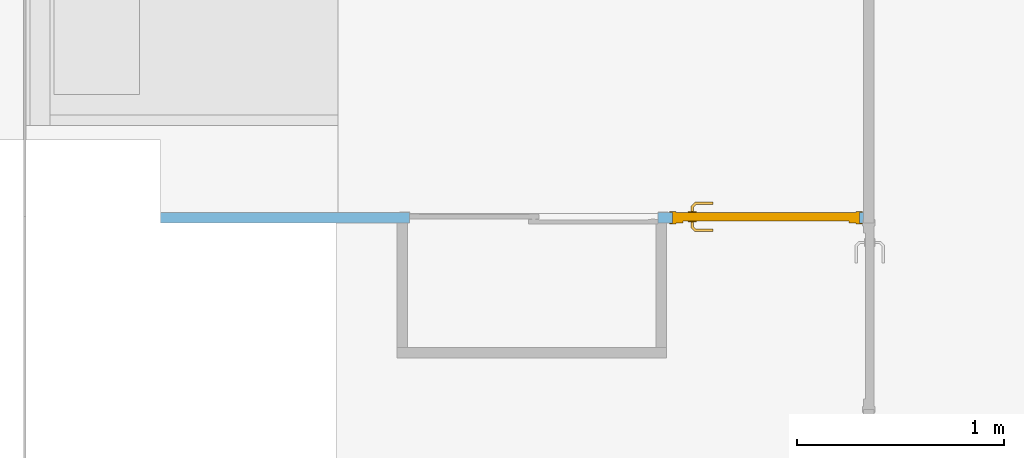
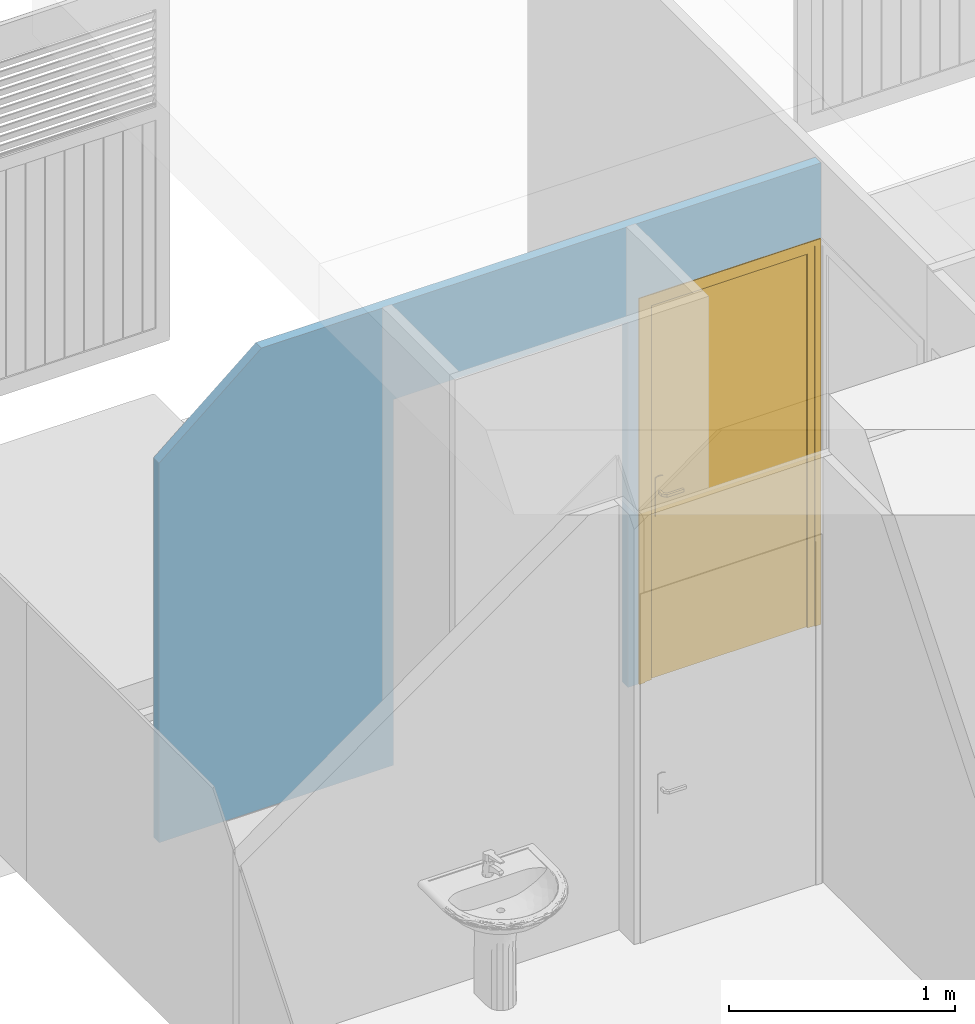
# One storey, part 4 of 11: 1 door, 2 openings, plus 1 element that does not belong to this part.
"""IFC2X3 building model written with IfcOpenShell, lengths in metres."""

from ifc_helpers import new_model, entity, si_unit, converted_unit, derived_unit, direction, frame, frame_2d, origin, place, context, subcontext, project, spatial, polyline, rectangle, extrude, clip, halfspace, bounded_halfspace, faceted_brep, source, transform, mapped, material, material_list, layer, layer_set, layer_usage, type_object, type_shapes, element, fill, save


model = new_model("IFC2X3")

# Units and contexts
model_context = context("Model", 3, precision=1e-05, world=origin(), true_north=direction((6.12303176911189e-17, 1.0)))
body_context = subcontext(model_context, "Body", "Model", "MODEL_VIEW")
ifc_project = project(units=[si_unit("LENGTHUNIT", "METRE"), si_unit("AREAUNIT", "SQUARE_METRE"), si_unit("VOLUMEUNIT", "CUBIC_METRE"), converted_unit("PLANEANGLEUNIT", "DEGREE", entity("IfcRatioMeasure", 0.0174532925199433), si_unit("PLANEANGLEUNIT", "RADIAN"), dimensions=[0, 0, 0, 0, 0, 0, 0]), si_unit("MASSUNIT", "GRAM", prefix="KILO"), derived_unit("MASSDENSITYUNIT", [(si_unit("MASSUNIT", "GRAM", prefix="KILO"), 1), (si_unit("LENGTHUNIT", "METRE"), -3)]), derived_unit("MOMENTOFINERTIAUNIT", [(si_unit("LENGTHUNIT", "METRE"), 4)]), si_unit("TIMEUNIT", "SECOND"), si_unit("FREQUENCYUNIT", "HERTZ"), si_unit("THERMODYNAMICTEMPERATUREUNIT", "DEGREE_CELSIUS"), derived_unit("THERMALTRANSMITTANCEUNIT", [(si_unit("MASSUNIT", "GRAM", prefix="KILO"), 1), (si_unit("THERMODYNAMICTEMPERATUREUNIT", "KELVIN"), -1), (si_unit("TIMEUNIT", "SECOND"), -3)]), derived_unit("VOLUMETRICFLOWRATEUNIT", [(si_unit("LENGTHUNIT", "METRE"), 3), (si_unit("TIMEUNIT", "SECOND"), -1)]), si_unit("ELECTRICCURRENTUNIT", "AMPERE"), si_unit("ELECTRICVOLTAGEUNIT", "VOLT"), si_unit("POWERUNIT", "WATT"), si_unit("FORCEUNIT", "NEWTON", prefix="KILO"), si_unit("ILLUMINANCEUNIT", "LUX"), si_unit("LUMINOUSFLUXUNIT", "LUMEN"), si_unit("LUMINOUSINTENSITYUNIT", "CANDELA"), derived_unit("USERDEFINED", [(si_unit("MASSUNIT", "GRAM", prefix="KILO"), -1), (si_unit("LENGTHUNIT", "METRE"), -2), (si_unit("TIMEUNIT", "SECOND"), 3), (si_unit("LUMINOUSFLUXUNIT", "LUMEN"), 1)]), derived_unit("LINEARVELOCITYUNIT", [(si_unit("LENGTHUNIT", "METRE"), 1), (si_unit("TIMEUNIT", "SECOND"), -1)]), si_unit("PRESSUREUNIT", "PASCAL"), derived_unit("USERDEFINED", [(si_unit("LENGTHUNIT", "METRE"), -2), (si_unit("MASSUNIT", "GRAM", prefix="KILO"), 1), (si_unit("TIMEUNIT", "SECOND"), -2)]), derived_unit("LINEARFORCEUNIT", [(si_unit("MASSUNIT", "GRAM", prefix="KILO"), 1), (si_unit("LENGTHUNIT", "METRE"), 1), (si_unit("TIMEUNIT", "SECOND"), -2), (si_unit("LENGTHUNIT", "METRE"), -1)]), derived_unit("PLANARFORCEUNIT", [(si_unit("MASSUNIT", "GRAM", prefix="KILO"), 1), (si_unit("LENGTHUNIT", "METRE"), 1), (si_unit("TIMEUNIT", "SECOND"), -2), (si_unit("LENGTHUNIT", "METRE"), -2)])], contexts=[model_context])

# Site, building, storey
site_placement = place(None, origin())
site = spatial("IfcSite", under=ifc_project, at=site_placement, Name="Surface", CompositionType="ELEMENT")
building_placement = place(site_placement, origin())
building = spatial("IfcBuilding", under=site, at=building_placement, CompositionType="ELEMENT")
storey_placement = place(building_placement, frame((0.0, 0.0, 2.72)))
storey = spatial("IfcBuildingStorey", under=building, at=storey_placement, Name="02 ETG", CompositionType="ELEMENT", Elevation=2.72)

# Wall, openings, door
ifc_material_1 = material(Name="Mur par défaut")
ifc_layer = layer(ifc_material_1, 0.05)
ifc_layer_set = layer_set([ifc_layer], Name="Mur de base:cloison séche - B.A10")
ifc_layer_usage = layer_usage(ifc_layer_set, "AXIS2", "NEGATIVE", 0.025)
wall_type = type_object("IfcWallType", Name="Mur de base:cloison séche - B.A10", PredefinedType="STANDARD", material=ifc_layer_set)
wall_placement = place(storey_placement, frame((6.39656158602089, 0.859039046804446, 0.0)))
wall = element("IfcWallStandardCase", 1, at=wall_placement, inside=storey, type_object=wall_type, material=ifc_layer_usage, Name="Mur de base:cloison séche - B.A10", ObjectType="Mur de base:cloison séche - B.A10", context=body_context, shape_type="Clipping", body=[
    clip(clip(extrude(rectangle(XDim=3.38999999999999, YDim=0.05, at=frame_2d((1.695, 3.81639164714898e-17), x_axis=(-1.0, 0.0))), origin(), (0.0, 0.0, 1.0), 2.49499999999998), bounded_halfspace(frame((3.38999999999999, 0.0250000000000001, 2.49499999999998), z_axis=(0.0, 0.0, -1.0), x_axis=(1.0, 0.0, 0.0)), True, frame((3.38999999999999, 0.0250000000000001, 2.49499999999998)), polyline([(0.0, 0.0), (-2.53499999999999, 0.0), (-2.53499999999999, -0.0249999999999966), (0.0, -0.0249999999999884), (0.0, 0.0)]))), halfspace(frame((0.0, -0.025, 2.05536265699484), z_axis=(-0.642787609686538, 0.0, 0.766044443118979), x_axis=(0.0, 1.0, 0.0)), False)),
])
opening_1_placement = place(wall_placement, frame((2.47, -0.0249999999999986, 0.0)))
opening_1 = element("IfcOpeningElement", 2, at=opening_1_placement, cuts=wall, Name="Int. Simple:PP (0.83m x 2.04m):1", ObjectType="Opening", context=body_context, shape_type="SweptSolid", body=[
    extrude(rectangle(XDim=2.075, YDim=0.9, at=frame_2d((1.0375, 0.45), x_axis=(1.0, 0.0))), frame((0.0, 0.0, 0.0), z_axis=(0.0, 1.0, 0.0), x_axis=(0.0, 0.0, 1.0)), (0.0, 0.0, 1.0), 0.05),
])
opening_2_placement = place(wall_placement, frame((1.2, -0.0249999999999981, 0.0)))
element("IfcOpeningElement", 3, at=opening_2_placement, cuts=wall, Name="Placard coulissante - 2 panneaux:Placard coulissante - 2 panneaux:1", ObjectType="Opening", context=body_context, shape_type="SweptSolid", body=[
    extrude(rectangle(XDim=1.97999999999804, YDim=1.2, at=frame_2d((0.989999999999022, 0.6), x_axis=(1.0, 0.0))), frame((0.0, 0.0, 0.0), z_axis=(0.0, 1.0, 0.0), x_axis=(0.0, 0.0, 1.0)), (0.0, 0.0, 1.0), 0.05),
])
ifc_material_2 = material(Name="Finition Peinture - Blanc satiné")
ifc_material_3 = material(Name="Bois - Panneau de porte")
ifc_material_4 = material(Name="Bois - Cadre de porte")
ifc_material_list_1 = material_list([ifc_material_2, ifc_material_3, ifc_material_4])
ifc_material_list_2 = material_list([ifc_material_4, ifc_material_3, ifc_material_2, ifc_material_4])
door_style = type_object("IfcDoorStyle", Name="Int. Simple:PP (0.83m x 2.04m)", ConstructionType="NOTDEFINED", OperationType="NOTDEFINED", ParameterTakesPrecedence=False, Sizeable=False, material=ifc_material_list_2)
shared_shape = source(origin(), body_context, "Body", "Brep", [
    faceted_brep([(0.895000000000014, -0.00500000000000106, 0.870000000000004), (0.895000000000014, -0.00500000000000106, 1.08), (0.885352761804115, -0.00500000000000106, 1.08399601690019), (0.875000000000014, -0.00500000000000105, 1.08535898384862), (0.864647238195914, -0.00500000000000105, 1.08399601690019), (0.855000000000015, -0.00500000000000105, 1.08), (0.855000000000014, -0.00500000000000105, 0.870000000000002), (0.864647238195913, -0.00500000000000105, 0.866003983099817), (0.875000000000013, -0.00500000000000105, 0.86464101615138), (0.885352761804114, -0.00500000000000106, 0.866003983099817), (0.895000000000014, 0.0, 1.08), (0.895000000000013, 0.0, 0.870000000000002), (0.885352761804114, 0.0, 0.866003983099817), (0.875000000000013, 0.0, 0.86464101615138), (0.864647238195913, 0.0, 0.866003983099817), (0.855000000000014, 0.0, 0.870000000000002), (0.855000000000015, 0.0, 1.08), (0.864647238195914, 0.0, 1.08399601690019), (0.875000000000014, 0.0, 1.08535898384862), (0.885352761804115, 0.0, 1.08399601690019)], [[[0, 1, 2, 3, 4, 5, 6, 7, 8, 9]], [[10, 11, 12, 13, 14, 15, 16, 17, 18, 19]], [[9, 12, 11, 0]], [[8, 13, 12, 9]], [[7, 14, 13, 8]], [[7, 6, 15, 14]], [[15, 6, 5, 16]], [[4, 17, 16, 5]], [[3, 18, 17, 4]], [[2, 19, 18, 3]], [[2, 1, 10, 19]], [[11, 10, 1, 0]]]),
    faceted_brep([(0.895000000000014, 0.0399999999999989, 0.870000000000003), (0.895000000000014, 0.0399999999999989, 1.08), (0.885352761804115, 0.0399999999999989, 1.08399601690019), (0.875000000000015, 0.0399999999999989, 1.08535898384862), (0.864647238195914, 0.0399999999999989, 1.08399601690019), (0.855000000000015, 0.0399999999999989, 1.08), (0.855000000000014, 0.0399999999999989, 0.870000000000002), (0.864647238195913, 0.0399999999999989, 0.866003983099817), (0.875000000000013, 0.0399999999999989, 0.86464101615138), (0.885352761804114, 0.0399999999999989, 0.866003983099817), (0.875000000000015, 0.0449999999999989, 1.08535898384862), (0.885352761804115, 0.0449999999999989, 1.08399601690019), (0.895000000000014, 0.0449999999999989, 1.08), (0.895000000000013, 0.0449999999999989, 0.870000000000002), (0.885352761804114, 0.0449999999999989, 0.866003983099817), (0.875000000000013, 0.0449999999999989, 0.86464101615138), (0.864647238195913, 0.0449999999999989, 0.866003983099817), (0.855000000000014, 0.0449999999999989, 0.870000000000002), (0.855000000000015, 0.0449999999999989, 1.08), (0.864647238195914, 0.0449999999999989, 1.08399601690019)], [[[0, 1, 2, 3, 4, 5, 6, 7, 8, 9]], [[10, 11, 12, 13, 14, 15, 16, 17, 18, 19]], [[4, 19, 18, 5]], [[3, 10, 19, 4]], [[2, 11, 10, 3]], [[2, 1, 12, 11]], [[13, 12, 1, 0]], [[9, 14, 13, 0]], [[8, 15, 14, 9]], [[7, 16, 15, 8]], [[7, 6, 17, 16]], [[17, 6, 5, 18]]]),
    faceted_brep([(0.872974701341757, -0.0050000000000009, 1.00778044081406), (0.877025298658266, -0.00500000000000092, 1.00778044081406), (0.881000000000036, -0.00500000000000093, 1.00699999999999), (0.881000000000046, -0.00500000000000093, 0.992999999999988), (0.877025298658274, -0.00500000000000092, 0.99221955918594), (0.872974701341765, -0.0050000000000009, 0.992219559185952), (0.868999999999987, -0.00500000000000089, 0.993000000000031), (0.868999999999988, -0.00500000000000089, 1.007), (0.877025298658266, -0.0310045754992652, 1.00778044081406), (0.881000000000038, -0.0326509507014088, 1.007), (0.872974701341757, -0.0293267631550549, 1.00778044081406), (0.859298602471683, -0.0430028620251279, 1.00778044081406), (0.860976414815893, -0.0470534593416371, 1.00778044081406), (0.868999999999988, -0.0276803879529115, 1.007), (0.868999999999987, -0.0276803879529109, 0.993000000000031), (0.872974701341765, -0.0293267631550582, 0.992219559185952), (0.877025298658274, -0.0310045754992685, 0.99221955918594), (0.860976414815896, -0.047053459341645, 0.99221955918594), (0.859298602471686, -0.0430028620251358, 0.992219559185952), (0.881000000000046, -0.0326509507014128, 0.992999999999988), (0.862622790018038, -0.0510281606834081, 1.007), (0.85765222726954, -0.0390281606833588, 1.007), (0.857652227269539, -0.0390281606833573, 0.993000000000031), (0.862622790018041, -0.0510281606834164, 0.992999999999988), (0.774981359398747, -0.0510281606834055, 1.007), (0.774981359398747, -0.0470534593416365, 1.00778044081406), (0.774981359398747, -0.0430028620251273, 1.00778044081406), (0.774981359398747, -0.0390281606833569, 1.00699999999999), (0.774981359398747, -0.0390281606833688, 0.993000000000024), (0.774981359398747, -0.0430028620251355, 0.992219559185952), (0.774981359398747, -0.0470534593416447, 0.99221955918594), (0.774981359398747, -0.0510281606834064, 0.992999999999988), (0.81713998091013, -0.045028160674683, 1.0078786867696), (0.822692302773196, -0.051028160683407, 1.007), (0.816316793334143, -0.039028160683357, 1.007), (0.816316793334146, -0.0390281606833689, 0.993000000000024), (0.817139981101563, -0.0450281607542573, 0.992121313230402), (0.822692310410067, -0.0510281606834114, 0.992999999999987)], [[[0, 1, 2, 3, 4, 5, 6, 7]], [[2, 1, 8, 9]], [[1, 0, 10, 11, 12, 8]], [[0, 7, 13, 10]], [[14, 13, 7, 6]], [[5, 15, 14, 6]], [[5, 4, 16, 17, 18, 15]], [[3, 19, 16, 4]], [[9, 19, 3, 2]], [[9, 8, 12, 20]], [[10, 13, 21, 11]], [[22, 21, 13, 14]], [[14, 15, 18, 22]], [[16, 19, 23, 17]], [[20, 23, 19, 9]], [[24, 25, 26, 27, 28, 29, 30, 31]], [[32, 25, 33]], [[33, 25, 24]], [[33, 20, 12]], [[11, 34, 32]], [[34, 11, 21]], [[27, 26, 34]], [[32, 26, 25]], [[32, 34, 26]], [[32, 33, 12]], [[11, 32, 12]], [[21, 22, 35, 28, 27, 34]], [[36, 29, 35]], [[30, 36, 37]], [[18, 35, 22]], [[29, 28, 35]], [[30, 37, 31]], [[37, 17, 23]], [[36, 17, 37]], [[36, 18, 17]], [[36, 35, 18]], [[29, 36, 30]], [[23, 20, 33, 24, 31, 37]]]),
    faceted_brep([(0.872974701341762, 0.0449999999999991, 0.992219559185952), (0.877025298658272, 0.0449999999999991, 0.99221955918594), (0.881000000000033, 0.044999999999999, 0.992999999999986), (0.881000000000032, 0.044999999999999, 1.007), (0.877025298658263, 0.0449999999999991, 1.00778044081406), (0.872974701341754, 0.0449999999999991, 1.00778044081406), (0.868999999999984, 0.0449999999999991, 1.007), (0.868999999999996, 0.0449999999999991, 0.993000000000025), (0.868999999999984, 0.067485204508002, 1.007), (0.868999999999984, 0.0674852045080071, 0.993000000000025), (0.872974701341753, 0.0691315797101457, 1.00778044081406), (0.877025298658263, 0.070809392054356, 1.00778044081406), (0.860838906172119, 0.0869957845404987, 1.00778044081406), (0.859161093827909, 0.0829451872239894, 1.00778044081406), (0.881000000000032, 0.0724557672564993, 1.007), (0.881000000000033, 0.0724557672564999, 0.992999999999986), (0.877025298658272, 0.0708093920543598, 0.99221955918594), (0.872974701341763, 0.0691315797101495, 0.992219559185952), (0.859161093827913, 0.0829451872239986, 0.992219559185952), (0.860838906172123, 0.0869957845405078, 0.99221955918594), (0.857514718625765, 0.0789704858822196, 1.007), (0.857514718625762, 0.0789704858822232, 0.993000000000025), (0.862485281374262, 0.0909704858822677, 1.007), (0.862485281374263, 0.0909704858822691, 0.992999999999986), (0.77495421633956, 0.0829451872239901, 1.00778044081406), (0.77495421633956, 0.0869957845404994, 1.00778044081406), (0.77495421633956, 0.0909704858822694, 1.007), (0.77495421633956, 0.0909704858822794, 0.992999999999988), (0.77495421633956, 0.086995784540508, 0.99221955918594), (0.77495421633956, 0.0829451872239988, 0.992219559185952), (0.77495421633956, 0.0789704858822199, 0.993000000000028), (0.77495421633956, 0.0789704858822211, 1.007), (0.816234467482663, 0.0789704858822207, 1.007), (0.816234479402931, 0.0789704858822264, 0.993000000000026), (0.817057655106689, 0.0849704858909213, 1.0078786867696), (0.822554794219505, 0.0909704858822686, 1.007), (0.822554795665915, 0.0909704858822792, 0.992999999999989), (0.817057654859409, 0.0849704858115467, 0.992121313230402)], [[[0, 1, 2, 3, 4, 5, 6, 7]], [[8, 9, 7, 6]], [[5, 10, 8, 6]], [[5, 4, 11, 12, 13, 10]], [[3, 14, 11, 4]], [[14, 3, 2, 15]], [[2, 1, 16, 15]], [[1, 0, 17, 18, 19, 16]], [[0, 7, 9, 17]], [[20, 21, 9, 8]], [[8, 10, 13, 20]], [[14, 22, 12, 11]], [[23, 22, 14, 15]], [[15, 16, 19, 23]], [[17, 9, 21, 18]], [[24, 25, 26, 27, 28, 29, 30, 31]], [[21, 20, 32, 31, 30, 33]], [[34, 24, 32]], [[25, 34, 35]], [[13, 32, 20]], [[24, 31, 32]], [[25, 35, 26]], [[35, 12, 22]], [[34, 12, 35]], [[34, 13, 12]], [[34, 32, 13]], [[24, 34, 25]], [[22, 23, 36, 27, 26, 35]], [[37, 28, 36]], [[36, 28, 27]], [[36, 23, 19]], [[18, 33, 37]], [[33, 18, 21]], [[30, 29, 33]], [[37, 29, 28]], [[37, 33, 29]], [[37, 36, 19]], [[18, 37, 19]]]),
    faceted_brep([(0.935000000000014, 0.04, 2.04), (0.935000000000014, 0.04, 0.0), (0.105000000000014, 0.04, 0.0), (0.105000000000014, 0.04, 2.04), (0.935000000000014, 0.0, 2.04), (0.105000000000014, 0.0, 2.04), (0.105000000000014, 0.0, 0.0), (0.935000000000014, 0.0, 0.0)], [[[0, 1, 2, 3]], [[4, 5, 6, 7]], [[3, 5, 4, 0]], [[2, 6, 5, 3]], [[1, 7, 6, 2]], [[0, 4, 7, 1]]]),
    faceted_brep([(0.970000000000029, 0.0, 0.0), (0.935000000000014, 0.0, 0.0), (0.935000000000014, 0.040000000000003, 0.0), (0.920000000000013, 0.040000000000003, 0.0), (0.920000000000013, 0.050000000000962, 0.0), (0.970000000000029, 0.050000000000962, 0.0), (0.970000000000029, 0.050000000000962, 2.07500000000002), (0.970000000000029, 0.0, 2.07500000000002), (0.920000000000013, 0.050000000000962, 2.025), (0.120000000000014, 0.050000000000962, 2.025), (0.120000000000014, 0.050000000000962, 0.0), (0.0699999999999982, 0.050000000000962, 0.0), (0.0699999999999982, 0.050000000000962, 2.07500000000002), (0.920000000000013, 0.040000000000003, 2.025), (0.935000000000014, 0.040000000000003, 2.04), (0.105000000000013, 0.040000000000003, 2.04), (0.105000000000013, 0.040000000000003, 0.0), (0.120000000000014, 0.040000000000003, 0.0), (0.120000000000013, 0.040000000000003, 2.025), (0.935000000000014, 0.0, 2.04), (0.0699999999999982, 0.0, 2.07500000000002), (0.0699999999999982, 0.0, 0.0), (0.105000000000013, 0.0, 0.0), (0.105000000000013, 0.0, 2.04)], [[[0, 1, 2, 3, 4, 5]], [[5, 6, 7, 0]], [[4, 8, 9, 10, 11, 12, 6, 5]], [[3, 13, 8, 4]], [[2, 14, 15, 16, 17, 18, 13, 3]], [[1, 19, 14, 2]], [[0, 7, 20, 21, 22, 23, 19, 1]], [[12, 11, 21, 20]], [[21, 11, 10, 17, 16, 22]], [[18, 17, 10, 9]], [[23, 22, 16, 15]], [[6, 12, 20, 7]], [[13, 18, 9, 8]], [[19, 23, 15, 14]]]),
    faceted_brep([(0.955000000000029, 0.050000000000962, 0.0), (0.955000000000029, 0.055000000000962, 0.0), (0.985000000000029, 0.055000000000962, 0.0), (0.985000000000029, 0.050000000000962, 0.0), (0.985000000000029, 0.050000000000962, 2.09000000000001), (0.0550000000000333, 0.050000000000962, 2.09000000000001), (0.0550000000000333, 0.050000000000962, 0.0), (0.0850000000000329, 0.050000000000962, 0.0), (0.0850000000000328, 0.050000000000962, 2.06000000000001), (0.955000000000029, 0.050000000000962, 2.06000000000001), (0.985000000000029, 0.055000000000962, 2.09000000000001), (0.955000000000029, 0.055000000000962, 2.06000000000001), (0.0850000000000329, 0.055000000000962, 2.06000000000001), (0.0850000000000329, 0.055000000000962, 0.0), (0.055000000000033, 0.055000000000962, 0.0), (0.0550000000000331, 0.055000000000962, 2.09000000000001)], [[[0, 1, 2, 3]], [[3, 4, 5, 6, 7, 8, 9, 0]], [[2, 10, 4, 3]], [[1, 11, 12, 13, 14, 15, 10, 2]], [[0, 9, 11, 1]], [[7, 6, 14, 13]], [[8, 7, 13, 12]], [[15, 14, 6, 5]], [[10, 15, 5, 4]], [[9, 8, 12, 11]]]),
    faceted_brep([(0.985000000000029, -0.005, 0.0), (0.985000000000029, -0.005, 2.09000000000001), (0.0550000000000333, -0.005, 2.09000000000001), (0.0550000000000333, -0.005, 0.0), (0.0850000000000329, -0.005, 0.0), (0.0850000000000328, -0.005, 2.06000000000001), (0.955000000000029, -0.005, 2.06000000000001), (0.955000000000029, -0.005, 0.0), (0.985000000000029, 0.0, 0.0), (0.985000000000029, 0.0, 2.09000000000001), (0.955000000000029, 0.0, 0.0), (0.955000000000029, 0.0, 2.06000000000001), (0.0850000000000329, 0.0, 2.06000000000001), (0.0850000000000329, 0.0, 0.0), (0.055000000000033, 0.0, 0.0), (0.0550000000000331, 0.0, 2.09000000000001)], [[[0, 1, 2, 3, 4, 5, 6, 7]], [[8, 9, 1, 0]], [[10, 11, 12, 13, 14, 15, 9, 8]], [[7, 6, 11, 10]], [[5, 4, 13, 12]], [[15, 14, 3, 2]], [[9, 15, 2, 1]], [[6, 5, 12, 11]], [[4, 3, 14, 13]], [[7, 10, 8, 0]]]),
])
type_shapes(door_style, [shared_shape])
door_placement = place(opening_1_placement, frame((0.970000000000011, 0.0499999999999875, 0.0), z_axis=(0.0, 0.0, 1.0), x_axis=(-1.0, 0.0, 0.0)))
door = element("IfcDoor", 4, at=door_placement, inside=storey, type_object=door_style, material=ifc_material_list_1, Name="Int. Simple:PP (0.83m x 2.04m)", ObjectType="Int. Simple:PP (0.83m x 2.04m)", OverallHeight=2.075, OverallWidth=0.9, context=body_context, shape_type="MappedRepresentation", body=[
    mapped(shared_shape, transform((0.0, 0.0, 0.0), scale=1.0)),
])
fill(opening_1, door)

save(model, "model.ifc")
